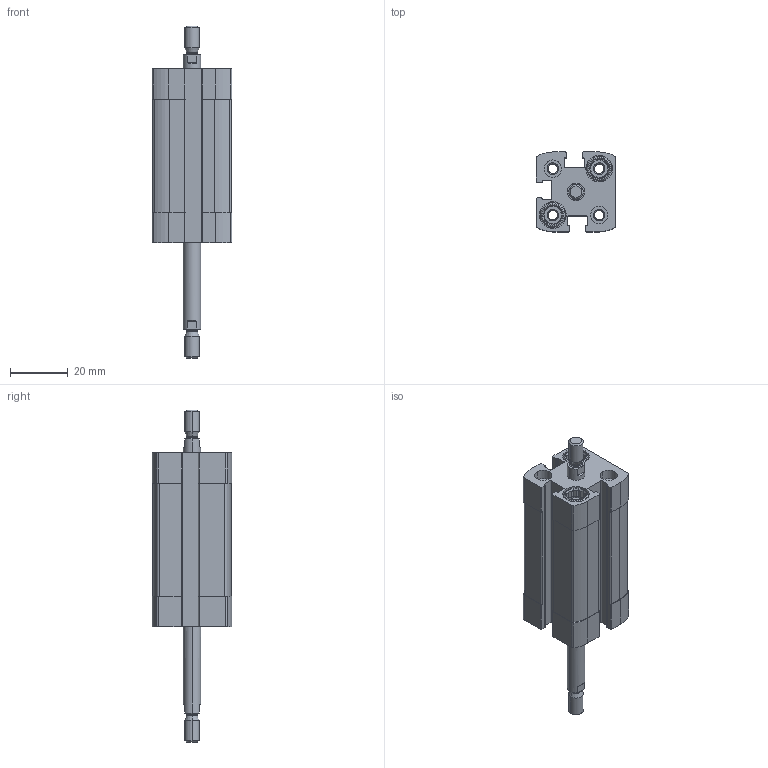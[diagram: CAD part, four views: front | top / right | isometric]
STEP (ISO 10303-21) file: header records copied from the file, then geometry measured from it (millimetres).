
FILE_DESCRIPTION (( 'STEP AP203' ), '1' );
FILE_NAME ('CCN12-25-P.STEP', '2020-06-22T18:34:43', ( '' ), ( '' ), 'SwSTEP 2.0', 'SolidWorks 2019', '' );
FILE_SCHEMA (( 'CONFIG_CONTROL_DESIGN' ));
Length unit declared in the file: millimetre
Products named in the file (1): CCN12-25-P
Bounding box: 27.5 x 27.5 x 114.5 mm (x, y, z)
Volume: 33171 mm3; surface area: 18105.1 mm2
Topology: 2 solids, 2 shells, 384 faces, 976 edges, 632 vertices
Faces by surface type: plane 192, cylinder 140, cone 44, torus 8
Entity records: 11783 total; most frequent: CARTESIAN_POINT 2293, DIRECTION 1986, ORIENTED_EDGE 1952, EDGE_CURVE 976, AXIS2_PLACEMENT_3D 725, VERTEX_POINT 632, VECTOR 536, LINE 536
